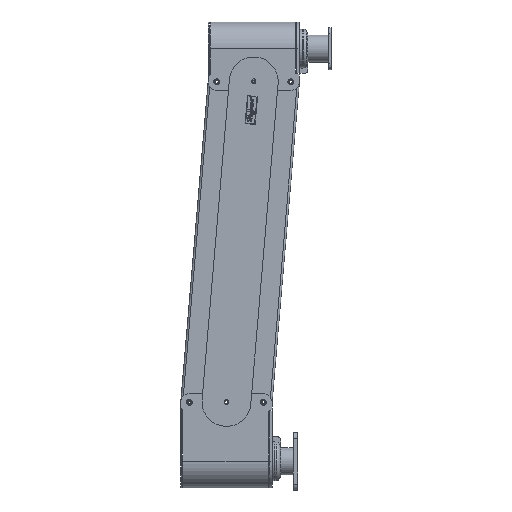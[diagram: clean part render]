
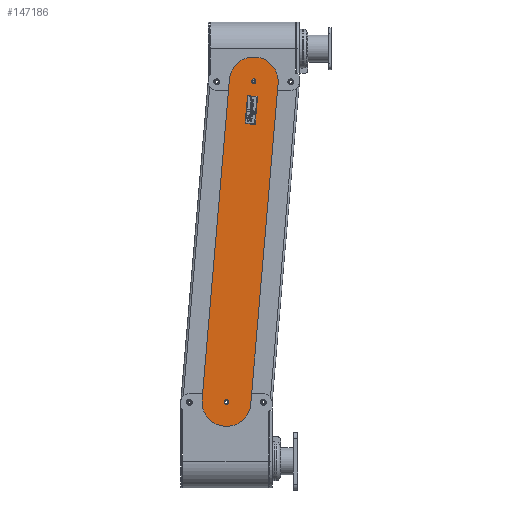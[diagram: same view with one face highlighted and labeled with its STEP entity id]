
A CAD part, left-side view. The second image highlights one B-rep face of the part: STEP entity #147186.
In plain terms, the highlighted planar face has unit normal (-1, 0, 0) as drawn and (0, 0, 1) by its records, which use the part's own axes.
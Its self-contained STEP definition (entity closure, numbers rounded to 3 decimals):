
#13573 = CARTESIAN_POINT ( 'NONE',  ( -14.219, 0., 0.1 ) ) ;
#16229 = CARTESIAN_POINT ( 'NONE',  ( -14.031, 0.187, 0.1 ) ) ;
#66649 = VERTEX_POINT ( 'NONE', #13573 ) ;
#66993 = VERTEX_POINT ( 'NONE', #16229 ) ;
#89982 = CARTESIAN_POINT ( 'NONE',  ( -14., -2.125, 0.1 ) ) ;
#90027 = CARTESIAN_POINT ( 'NONE',  ( -16.125, 0., 0.1 ) ) ;
#90029 = DIRECTION ( 'NONE',  ( -1., 0., 0. ) ) ;
#90031 = DIRECTION ( 'NONE',  ( 0., 0., 1. ) ) ;
#90033 = CARTESIAN_POINT ( 'NONE',  ( -14., 0., 0.1 ) ) ;
#90034 = AXIS2_PLACEMENT_3D ( 'NONE', #90033, #90031, #90029 ) ;
#90036 = CIRCLE ( 'NONE', #90034, 2.125 ) ;
#90150 = CARTESIAN_POINT ( 'NONE',  ( 13.969, 0., 0.1 ) ) ;
#90248 = CARTESIAN_POINT ( 'NONE',  ( 13.781, 0., 0.1 ) ) ;
#90277 = CARTESIAN_POINT ( 'NONE',  ( 13.969, 0.188, 0.1 ) ) ;
#90285 = DIRECTION ( 'NONE',  ( -1., 0., 0. ) ) ;
#90287 = DIRECTION ( 'NONE',  ( 0., 0., 1. ) ) ;
#90289 = AXIS2_PLACEMENT_3D ( 'NONE', #90150, #90287, #90285 ) ;
#90290 = CIRCLE ( 'NONE', #90289, 0.188 ) ;
#91409 = DIRECTION ( 'NONE',  ( 1., 0., 0. ) ) ;
#91411 = DIRECTION ( 'NONE',  ( 0., 0., 1. ) ) ;
#91412 = CARTESIAN_POINT ( 'NONE',  ( -14.031, 0., 0.1 ) ) ;
#91414 = AXIS2_PLACEMENT_3D ( 'NONE', #91412, #91411, #91409 ) ;
#91415 = CIRCLE ( 'NONE', #91414, 0.188 ) ;
#91511 = DIRECTION ( 'NONE',  ( -1., 0., 0. ) ) ;
#91512 = DIRECTION ( 'NONE',  ( 0., 0., 1. ) ) ;
#91514 = CARTESIAN_POINT ( 'NONE',  ( 13.969, 0., 0.1 ) ) ;
#91516 = AXIS2_PLACEMENT_3D ( 'NONE', #91514, #91512, #91511 ) ;
#91517 = CIRCLE ( 'NONE', #91516, 0.188 ) ;
#91537 = CARTESIAN_POINT ( 'NONE',  ( -14., 2.125, 0.1 ) ) ;
#91538 = DIRECTION ( 'NONE',  ( -1., 0., 0. ) ) ;
#91540 = DIRECTION ( 'NONE',  ( 0., 0., 1. ) ) ;
#91541 = CARTESIAN_POINT ( 'NONE',  ( -14., 0., 0.1 ) ) ;
#91542 = AXIS2_PLACEMENT_3D ( 'NONE', #91541, #91540, #91538 ) ;
#91544 = CIRCLE ( 'NONE', #91542, 2.125 ) ;
#91582 = DIRECTION ( 'NONE',  ( -1., 0., 0. ) ) ;
#91584 = VECTOR ( 'NONE', #91582, 39.37 ) ;
#91586 = CARTESIAN_POINT ( 'NONE',  ( 13.969, 0.187, 0.1 ) ) ;
#91587 = LINE ( 'NONE', #91586, #91584 ) ;
#91610 = CARTESIAN_POINT ( 'NONE',  ( 14., 2.125, 0.1 ) ) ;
#91612 = CARTESIAN_POINT ( 'NONE',  ( 14., -2.125, 0.1 ) ) ;
#91614 = DIRECTION ( 'NONE',  ( 1., 0., 0. ) ) ;
#91616 = VECTOR ( 'NONE', #91614, 39.37 ) ;
#91618 = CARTESIAN_POINT ( 'NONE',  ( -14., -2.125, 0.1 ) ) ;
#91620 = LINE ( 'NONE', #91618, #91616 ) ;
#91719 = DIRECTION ( 'NONE',  ( -1., 0., 0. ) ) ;
#91721 = DIRECTION ( 'NONE',  ( 0., 0., -1. ) ) ;
#91722 = CARTESIAN_POINT ( 'NONE',  ( -14., 0., 0.1 ) ) ;
#91724 = AXIS2_PLACEMENT_3D ( 'NONE', #91722, #91721, #91719 ) ;
#91725 = PLANE ( 'NONE',  #91724 ) ;
#91726 = FACE_BOUND ( 'NONE', #147268, .T. ) ;
#91727 = FACE_OUTER_BOUND ( 'NONE', #147144, .T. ) ;
#91728 = FACE_BOUND ( 'NONE', #147189, .T. ) ;
#91775 = DIRECTION ( 'NONE',  ( 1., 0., 0. ) ) ;
#91777 = VECTOR ( 'NONE', #91775, 39.37 ) ;
#91779 = CARTESIAN_POINT ( 'NONE',  ( 14.031, -0.187, 0.1 ) ) ;
#91780 = LINE ( 'NONE', #91779, #91777 ) ;
#91793 = CARTESIAN_POINT ( 'NONE',  ( 14.031, 0.187, 0.1 ) ) ;
#91794 = CARTESIAN_POINT ( 'NONE',  ( 14.031, -0.187, 0.1 ) ) ;
#91797 = DIRECTION ( 'NONE',  ( -1., 0., 0. ) ) ;
#91798 = DIRECTION ( 'NONE',  ( 0., 0., 1. ) ) ;
#91800 = CARTESIAN_POINT ( 'NONE',  ( 14.031, 0., 0.1 ) ) ;
#91801 = AXIS2_PLACEMENT_3D ( 'NONE', #91800, #91798, #91797 ) ;
#91802 = CIRCLE ( 'NONE', #91801, 0.188 ) ;
#91836 = DIRECTION ( 'NONE',  ( -1., 0., 0. ) ) ;
#91837 = VECTOR ( 'NONE', #91836, 39.37 ) ;
#91839 = CARTESIAN_POINT ( 'NONE',  ( -13.969, 0.187, 0.1 ) ) ;
#91840 = LINE ( 'NONE', #91839, #91837 ) ;
#91892 = CARTESIAN_POINT ( 'NONE',  ( 13.969, -0.187, 0.1 ) ) ;
#92415 = CARTESIAN_POINT ( 'NONE',  ( -13.969, 0., 0.1 ) ) ;
#92435 = DIRECTION ( 'NONE',  ( -1., 0., 0. ) ) ;
#92437 = VECTOR ( 'NONE', #92435, 39.37 ) ;
#92440 = CARTESIAN_POINT ( 'NONE',  ( -14., 2.125, 0.1 ) ) ;
#92442 = LINE ( 'NONE', #92440, #92437 ) ;
#92453 = DIRECTION ( 'NONE',  ( 1., 0., 0. ) ) ;
#92488 = DIRECTION ( 'NONE',  ( 0., 0., 1. ) ) ;
#92490 = CARTESIAN_POINT ( 'NONE',  ( 14., 0., 0.1 ) ) ;
#92492 = AXIS2_PLACEMENT_3D ( 'NONE', #92490, #92488, #92453 ) ;
#92494 = CIRCLE ( 'NONE', #92492, 2.125 ) ;
#92575 = CARTESIAN_POINT ( 'NONE',  ( -13.969, 0.187, 0.1 ) ) ;
#92599 = CARTESIAN_POINT ( 'NONE',  ( -13.969, -0.187, 0.1 ) ) ;
#92619 = DIRECTION ( 'NONE',  ( 1., 0., 0. ) ) ;
#92622 = DIRECTION ( 'NONE',  ( 0., 0., 1. ) ) ;
#92625 = AXIS2_PLACEMENT_3D ( 'NONE', #92415, #92622, #92619 ) ;
#92627 = CIRCLE ( 'NONE', #92625, 0.188 ) ;
#93584 = DIRECTION ( 'NONE',  ( 1., 0., 0. ) ) ;
#93587 = DIRECTION ( 'NONE',  ( 0., 0., 1. ) ) ;
#93590 = CARTESIAN_POINT ( 'NONE',  ( -14.031, 0., 0.1 ) ) ;
#93593 = AXIS2_PLACEMENT_3D ( 'NONE', #93590, #93587, #93584 ) ;
#93594 = CIRCLE ( 'NONE', #93593, 0.188 ) ;
#93654 = CARTESIAN_POINT ( 'NONE',  ( -14.031, -0.187, 0.1 ) ) ;
#93658 = DIRECTION ( 'NONE',  ( 1., 0., 0. ) ) ;
#93660 = VECTOR ( 'NONE', #93658, 39.37 ) ;
#93663 = CARTESIAN_POINT ( 'NONE',  ( -14.031, -0.187, 0.1 ) ) ;
#93668 = LINE ( 'NONE', #93663, #93660 ) ;
#147052 = EDGE_CURVE ( 'NONE', #147054, #147059, #90036, .T. ) ;
#147054 = VERTEX_POINT ( 'NONE', #90027 ) ;
#147059 = VERTEX_POINT ( 'NONE', #89982 ) ;
#147091 = EDGE_CURVE ( 'NONE', #147093, #147094, #90290, .T. ) ;
#147093 = VERTEX_POINT ( 'NONE', #90277 ) ;
#147094 = VERTEX_POINT ( 'NONE', #90248 ) ;
#147123 = EDGE_CURVE ( 'NONE', #66993, #66649, #91415, .T. ) ;
#147125 = ORIENTED_EDGE ( 'NONE', *, *, #147127, .F. ) ;
#147127 = EDGE_CURVE ( 'NONE', #147094, #147201, #91517, .T. ) ;
#147133 = ORIENTED_EDGE ( 'NONE', *, *, #147091, .F. ) ;
#147137 = ORIENTED_EDGE ( 'NONE', *, *, #147141, .F. ) ;
#147141 = EDGE_CURVE ( 'NONE', #147196, #147093, #91587, .T. ) ;
#147144 = EDGE_LOOP ( 'NONE', ( #147149, #147157, #147163, #147256, #147263 ) ) ;
#147149 = ORIENTED_EDGE ( 'NONE', *, *, #147151, .T. ) ;
#147151 = EDGE_CURVE ( 'NONE', #147153, #147054, #91544, .T. ) ;
#147153 = VERTEX_POINT ( 'NONE', #91537 ) ;
#147157 = ORIENTED_EDGE ( 'NONE', *, *, #147052, .T. ) ;
#147163 = ORIENTED_EDGE ( 'NONE', *, *, #147164, .T. ) ;
#147164 = EDGE_CURVE ( 'NONE', #147059, #147167, #91620, .T. ) ;
#147167 = VERTEX_POINT ( 'NONE', #91612 ) ;
#147168 = VERTEX_POINT ( 'NONE', #91610 ) ;
#147186 = ADVANCED_FACE ( 'NONE', ( #91728, #91727, #91726 ), #91725, .F. ) ;
#147189 = EDGE_LOOP ( 'NONE', ( #147191, #147198, #147125, #147133, #147137 ) ) ;
#147191 = ORIENTED_EDGE ( 'NONE', *, *, #147192, .F. ) ;
#147192 = EDGE_CURVE ( 'NONE', #147195, #147196, #91802, .T. ) ;
#147195 = VERTEX_POINT ( 'NONE', #91794 ) ;
#147196 = VERTEX_POINT ( 'NONE', #91793 ) ;
#147198 = ORIENTED_EDGE ( 'NONE', *, *, #147199, .F. ) ;
#147199 = EDGE_CURVE ( 'NONE', #147201, #147195, #91780, .T. ) ;
#147201 = VERTEX_POINT ( 'NONE', #91892 ) ;
#147215 = ORIENTED_EDGE ( 'NONE', *, *, #147123, .F. ) ;
#147217 = ORIENTED_EDGE ( 'NONE', *, *, #147219, .F. ) ;
#147219 = EDGE_CURVE ( 'NONE', #147280, #66993, #91840, .T. ) ;
#147256 = ORIENTED_EDGE ( 'NONE', *, *, #147261, .T. ) ;
#147261 = EDGE_CURVE ( 'NONE', #147167, #147168, #92494, .T. ) ;
#147263 = ORIENTED_EDGE ( 'NONE', *, *, #147265, .T. ) ;
#147265 = EDGE_CURVE ( 'NONE', #147168, #147153, #92442, .T. ) ;
#147268 = EDGE_LOOP ( 'NONE', ( #147270, #147281, #147291, #147215, #147217 ) ) ;
#147270 = ORIENTED_EDGE ( 'NONE', *, *, #147272, .F. ) ;
#147272 = EDGE_CURVE ( 'NONE', #147274, #147280, #92627, .T. ) ;
#147274 = VERTEX_POINT ( 'NONE', #92599 ) ;
#147280 = VERTEX_POINT ( 'NONE', #92575 ) ;
#147281 = ORIENTED_EDGE ( 'NONE', *, *, #147283, .F. ) ;
#147283 = EDGE_CURVE ( 'NONE', #147284, #147274, #93668, .T. ) ;
#147284 = VERTEX_POINT ( 'NONE', #93654 ) ;
#147291 = ORIENTED_EDGE ( 'NONE', *, *, #147292, .F. ) ;
#147292 = EDGE_CURVE ( 'NONE', #66649, #147284, #93594, .T. ) ;
